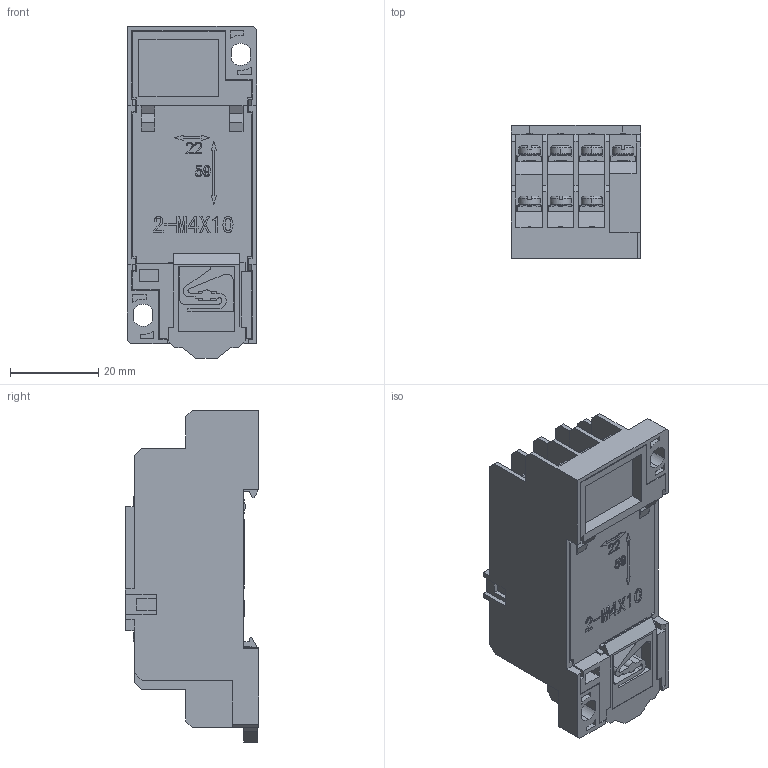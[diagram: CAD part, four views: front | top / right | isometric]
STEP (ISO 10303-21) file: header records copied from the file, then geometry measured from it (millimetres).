
FILE_DESCRIPTION (( 'STEP AP203' ), '1' );
FILE_NAME ('SYF14A 俋倛.STEP', '2023-01-13T03:32:46', ( '' ), ( '' ), 'SwSTEP 2.0', 'SolidWorks 2018', '' );
FILE_SCHEMA (( 'CONFIG_CONTROL_DESIGN' ));
Products named in the file (1): SYF14A 俋倛
Bounding box: 29.2 x 30.1 x 75.1 mm (x, y, z)
Volume: 41981.9 mm3; surface area: 16875.3 mm2
Topology: 1 solids, 1 shells, 2908 faces, 8026 edges, 5181 vertices
Faces by surface type: plane 1824, cylinder 589, cone 252, torus 140, bspline 103
Entity records: 104865 total; most frequent: CARTESIAN_POINT 34193, ORIENTED_EDGE 15996, DIRECTION 12970, EDGE_CURVE 7998, VERTEX_POINT 5181, VECTOR 4722, LINE 4722, AXIS2_PLACEMENT_3D 4124
